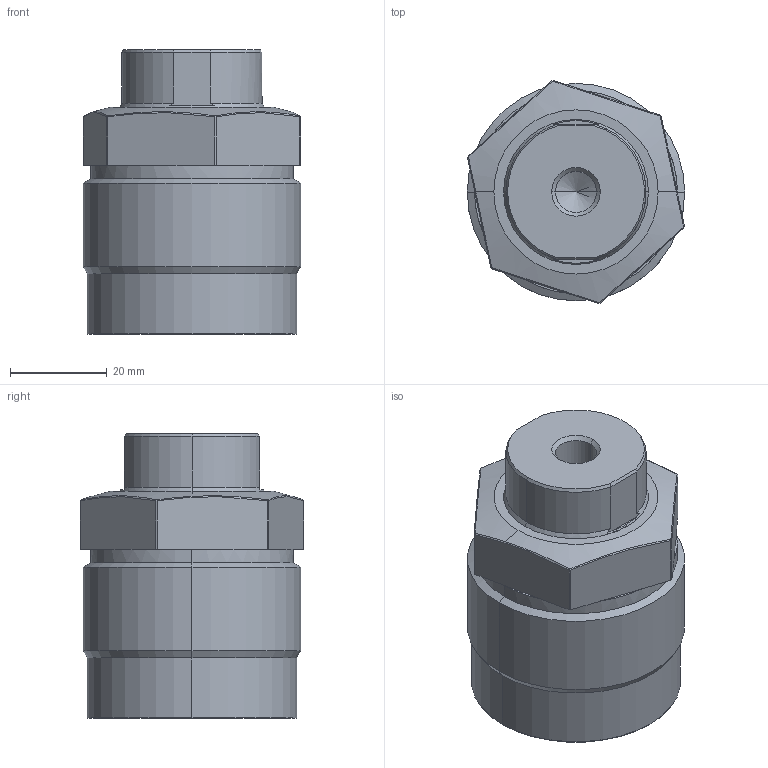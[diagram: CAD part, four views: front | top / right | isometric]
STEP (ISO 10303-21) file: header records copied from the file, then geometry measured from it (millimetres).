
FILE_DESCRIPTION (( 'STEP AP214' ), '1' );
FILE_NAME ('TO3C-M455-S.STEP', '2020-07-10T04:58:50', ( '' ), ( '' ), 'SwSTEP 2.0', 'SolidWorks 2019', '' );
FILE_SCHEMA (( 'AUTOMOTIVE_DESIGN' ));
Length unit declared in the file: millimetre
Products named in the file (3): M455-S-PLUNGER; TO3C-M455-S; TO3C-M455-S-BODY
Assembly tree (2 placements, depth 2):
  TO3C-M455-S
    TO3C-M455-S-BODY
    M455-S-PLUNGER
Bounding box: 45 x 46.2 x 59 mm (x, y, z)
Volume: 74316.9 mm3; surface area: 18043.1 mm2
Topology: 2 solids, 2 shells, 98 faces, 210 edges, 119 vertices
Faces by surface type: plane 44, cone 25, cylinder 23, bspline 6
Entity records: 3838 total; most frequent: CARTESIAN_POINT 1624, DIRECTION 444, ORIENTED_EDGE 416, EDGE_CURVE 208, AXIS2_PLACEMENT_3D 173, VERTEX_POINT 119, EDGE_LOOP 103, VECTOR 98
